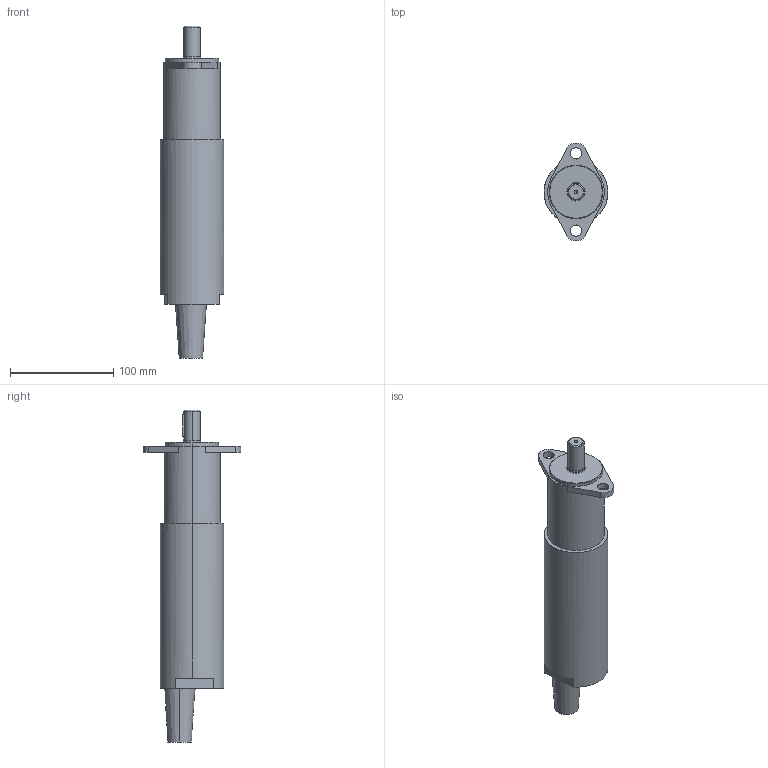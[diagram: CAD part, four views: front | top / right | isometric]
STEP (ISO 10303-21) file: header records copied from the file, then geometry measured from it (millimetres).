
FILE_DESCRIPTION (( 'STEP AP214' ), '1' );
FILE_NAME ('9M70R.step', '2017-03-30T07:50:51', ( '' ), ( '' ), 'SwSTEP 2.0', 'SolidWorks 2015', '' );
FILE_SCHEMA (( 'AUTOMOTIVE_DESIGN' ));
Length unit declared in the file: millimetre
Products named in the file (1): 9M70R
Bounding box: 62 x 94.93 x 322 mm (x, y, z)
Volume: 703864 mm3; surface area: 59470.7 mm2
Topology: 1 solids, 1 shells, 59 faces, 137 edges, 87 vertices
Faces by surface type: cylinder 27, plane 22, cone 8, torus 2
Entity records: 1807 total; most frequent: CARTESIAN_POINT 345, DIRECTION 321, ORIENTED_EDGE 270, EDGE_CURVE 135, AXIS2_PLACEMENT_3D 129, VERTEX_POINT 87, EDGE_LOOP 72, CIRCLE 69
